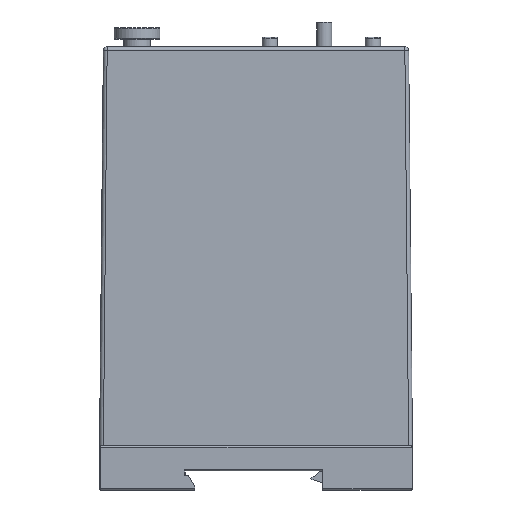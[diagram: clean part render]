
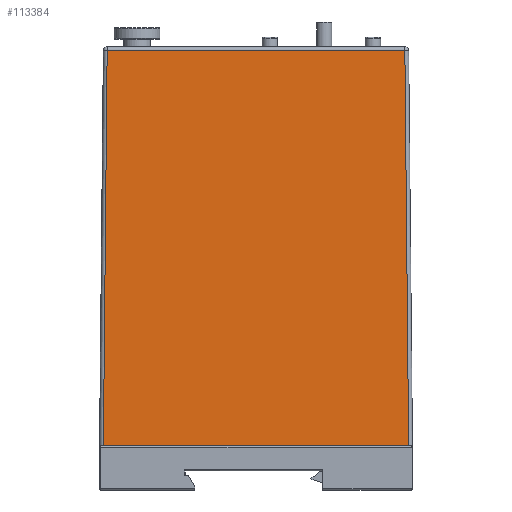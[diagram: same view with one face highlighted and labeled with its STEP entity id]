
A CAD part, left-side view. The second image highlights one B-rep face of the part: STEP entity #113384.
In plain terms, the highlighted planar face has unit normal (-1, 0, 0.017).
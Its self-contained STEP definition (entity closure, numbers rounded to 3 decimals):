
#7585 = CARTESIAN_POINT ( 'NONE',  ( 1.763, 79.993, 105.265 ) ) ;
#8230 = VECTOR ( 'NONE', #48600, 1000. ) ;
#9197 = CARTESIAN_POINT ( 'NONE',  ( 1.75, 2., 104.481 ) ) ;
#17068 = VECTOR ( 'NONE', #36239, 1000. ) ;
#20754 = DIRECTION ( 'NONE',  ( 0.017, 0.01, 1. ) ) ;
#23802 = EDGE_CURVE ( 'NONE', #26886, #76851, #78281, .T. ) ;
#24775 = CARTESIAN_POINT ( 'NONE',  ( 1.734, 81., 103.517 ) ) ;
#26886 = VERTEX_POINT ( 'NONE', #51072 ) ;
#27419 = LINE ( 'NONE', #9197, #54373 ) ;
#34640 = EDGE_CURVE ( 'NONE', #130823, #131767, #38756, .T. ) ;
#36239 = DIRECTION ( 'NONE',  ( 0., 1., 0. ) ) ;
#38305 = AXIS2_PLACEMENT_3D ( 'NONE', #63504, #134261, #65513 ) ;
#38756 = LINE ( 'NONE', #128875, #8230 ) ;
#48043 = EDGE_CURVE ( 'NONE', #76851, #130823, #136112, .T. ) ;
#48600 = DIRECTION ( 'NONE',  ( 0., -1., 0. ) ) ;
#51072 = CARTESIAN_POINT ( 'NONE',  ( 1.734, 1.99, 103.517 ) ) ;
#51176 = CARTESIAN_POINT ( 'NONE',  ( 0., 81., 0. ) ) ;
#54373 = VECTOR ( 'NONE', #20754, 1000. ) ;
#56505 = FACE_OUTER_BOUND ( 'NONE', #102729, .T. ) ;
#58652 = CARTESIAN_POINT ( 'NONE',  ( 1.734, 80.01, 103.517 ) ) ;
#62146 = ORIENTED_EDGE ( 'NONE', *, *, #48043, .T. ) ;
#63504 = CARTESIAN_POINT ( 'NONE',  ( 1.75, 0., 104.5 ) ) ;
#65513 = DIRECTION ( 'NONE',  ( 0., -1., 0. ) ) ;
#70283 = ORIENTED_EDGE ( 'NONE', *, *, #23802, .T. ) ;
#74661 = CARTESIAN_POINT ( 'NONE',  ( 0., 1., 0. ) ) ;
#75050 = ORIENTED_EDGE ( 'NONE', *, *, #81646, .T. ) ;
#76483 = DIRECTION ( 'NONE',  ( -0.017, 0.01, -1. ) ) ;
#76851 = VERTEX_POINT ( 'NONE', #58652 ) ;
#78281 = LINE ( 'NONE', #24775, #17068 ) ;
#81646 = EDGE_CURVE ( 'NONE', #131767, #26886, #27419, .T. ) ;
#102729 = EDGE_LOOP ( 'NONE', ( #109439, #75050, #70283, #62146 ) ) ;
#105561 = VECTOR ( 'NONE', #76483, 1000. ) ;
#109439 = ORIENTED_EDGE ( 'NONE', *, *, #34640, .T. ) ;
#113384 = ADVANCED_FACE ( 'NONE', ( #56505 ), #122715, .F. ) ;
#122715 = PLANE ( 'NONE',  #38305 ) ;
#128875 = CARTESIAN_POINT ( 'NONE',  ( 0., 0., 0. ) ) ;
#130823 = VERTEX_POINT ( 'NONE', #51176 ) ;
#131767 = VERTEX_POINT ( 'NONE', #74661 ) ;
#134261 = DIRECTION ( 'NONE',  ( 1., 0., -0.017 ) ) ;
#136112 = LINE ( 'NONE', #7585, #105561 ) ;
